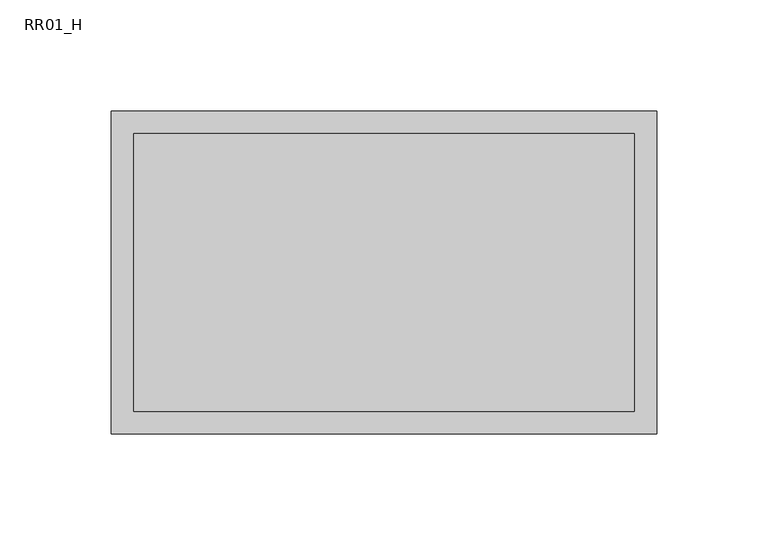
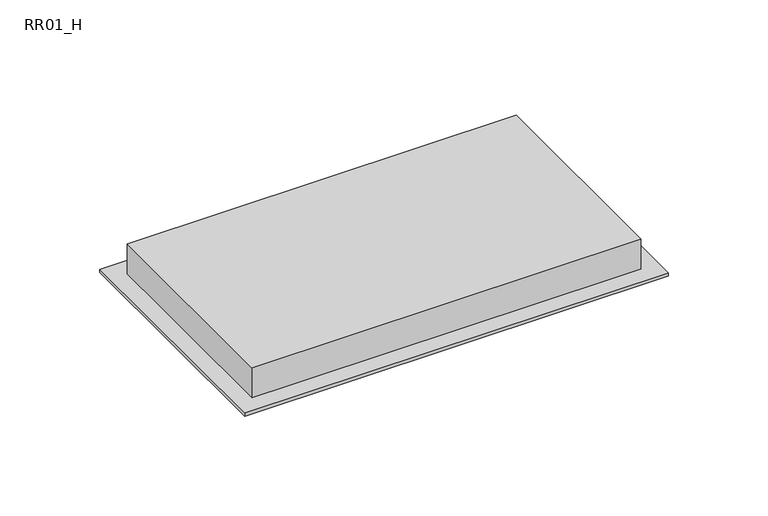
"""IFC4 building model written with IfcOpenShell, lengths in millimetres: air terminal geometry, ZYR_03.06.04.01 Reixa Sostre Retorn : RR01_H."""

from ifc_helpers import new_model, si_unit, origin, origin_with_axes, place, context, project, spatial, polyline, outline, extrude, source, transform, mapped, element, save


def rr01_h_67e1ad0a(model_context):
    return source(origin(), model_context, "Body", "SweptSolid", [
        extrude(outline(polyline([(112.5, 62.5), (112.5, -62.5), (-112.5, -62.5), (-112.5, 62.5), (112.5, 62.5)])), origin_with_axes(), (0.0, 0.0, 1.0), 20.0),
        extrude(outline(polyline([(122.5, 72.5), (122.5, -72.5), (-122.5, -72.5), (-122.5, 72.5), (122.5, 72.5)]), holes=[polyline([(112.5, 62.5), (-112.5, 62.5), (-112.5, -62.5), (112.5, -62.5), (112.5, 62.5)])]), origin_with_axes(), (0.0, 0.0, 1.0), 2.0),
    ])


if __name__ == "__main__":
    model = new_model("IFC4")
    model_context = context("Model", 3, world=origin())
    ifc_project = project(units=[si_unit("LENGTHUNIT", "METRE", prefix="MILLI")], contexts=[model_context])
    site = spatial("IfcSite", under=ifc_project)
    building = spatial("IfcBuilding", under=site)
    placement = place(None, origin())
    rr01_h_shape = rr01_h_67e1ad0a(model_context)
    element("IfcAirTerminal", 1, ObjectType="ZYR_03.06.04.01 Reixa Sostre Retorn : RR01_H", at=placement, inside=building, context=model_context, shape_type="MappedRepresentation", body=[
        mapped(rr01_h_shape, transform((0.0, 0.0, 0.0), x_axis=(1.0, 0.0, 0.0), y_axis=(0.0, 1.0, 0.0), z_axis=(0.0, 0.0, 1.0))),
    ])
    save(model, "model.ifc")
